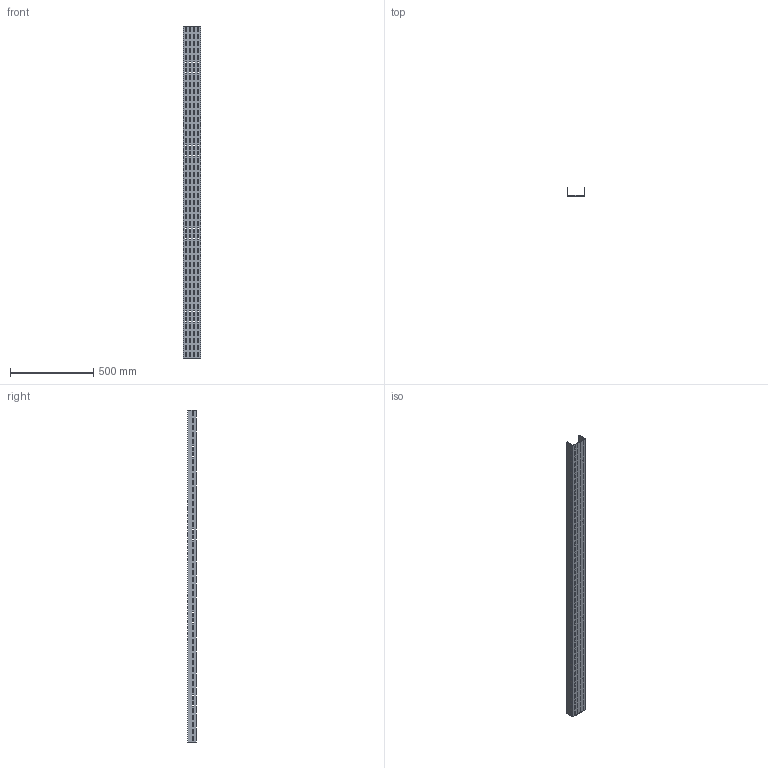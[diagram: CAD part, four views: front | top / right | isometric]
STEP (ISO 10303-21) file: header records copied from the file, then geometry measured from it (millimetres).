
FILE_DESCRIPTION (( 'STEP AP214' ), '1' );
FILE_NAME ('01F2B100.step', '2025-02-21T13:17:13', ( '' ), ( '' ), 'SwSTEP 2.0', 'SolidWorks 2023', '' );
FILE_SCHEMA (( 'AUTOMOTIVE_DESIGN' ));
Length unit declared in the file: millimetre
Products named in the file (1): 01F2B100
Bounding box: 104 x 52 x 2000 mm (x, y, z)
Volume: 1230600 mm3; surface area: 783119 mm2
Topology: 1 solids, 1 shells, 1162 faces, 3480 edges, 2320 vertices
Faces by surface type: plane 1162
Entity records: 39479 total; most frequent: CARTESIAN_POINT 6963, ORIENTED_EDGE 6960, DIRECTION 5806, LINE 3480, EDGE_CURVE 3480, VECTOR 3480, VERTEX_POINT 2320, EDGE_LOOP 1738
